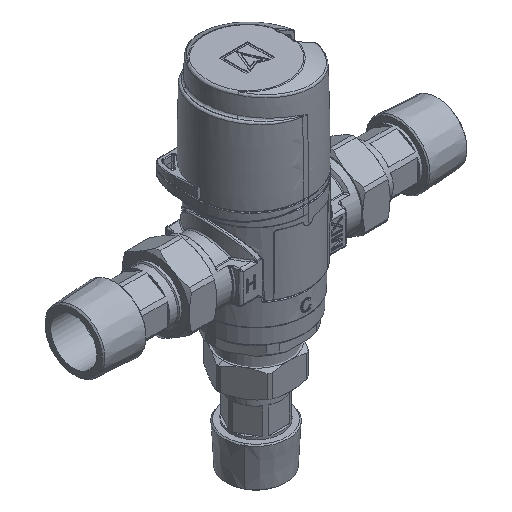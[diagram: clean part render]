
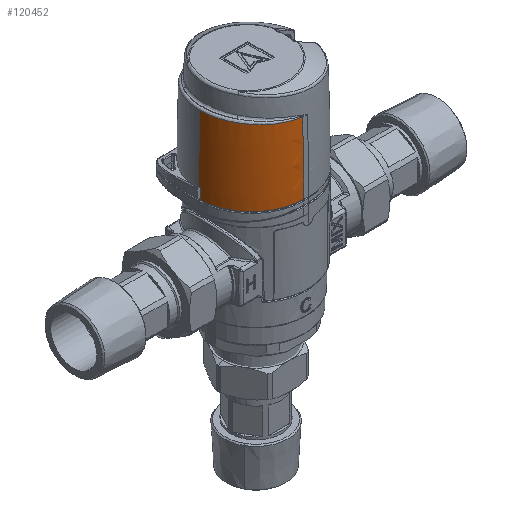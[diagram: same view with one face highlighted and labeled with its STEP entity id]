
A CAD part, isometric view. The second image highlights one B-rep face of the part: STEP entity #120452.
In plain terms, the highlighted toroidal (fillet/blend) face has major radius 1063.64 mm and minor radius 1085.24 mm.
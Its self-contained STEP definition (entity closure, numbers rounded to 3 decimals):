
#2179 = DIRECTION ( 'NONE',  ( 0., 0., -1. ) ) ;
#3913 = CARTESIAN_POINT ( 'NONE',  ( 3.393, 21.19, 29.641 ) ) ;
#4411 = CARTESIAN_POINT ( 'NONE',  ( 2., 0., 0.3 ) ) ;
#4562 = B_SPLINE_CURVE_WITH_KNOTS ( 'NONE', 3,
 ( #162615, #89217, #144504, #178944 ),
 .UNSPECIFIED., .F., .F.,
 ( 4, 4 ),
 ( 0., 0.004 ),
 .UNSPECIFIED. ) ;
#5992 = EDGE_CURVE ( 'NONE', #56878, #26967, #176265, .T. ) ;
#6597 = CARTESIAN_POINT ( 'NONE',  ( 22.242, 6.189, 31.639 ) ) ;
#12438 = CARTESIAN_POINT ( 'NONE',  ( 23.585, 0.361, 4.946 ) ) ;
#12789 = FACE_OUTER_BOUND ( 'NONE', #105527, .T. ) ;
#14120 = AXIS2_PLACEMENT_3D ( 'NONE', #38216, #26413, #123380 ) ;
#21102 = CARTESIAN_POINT ( 'NONE',  ( 20.656, 10.011, 31.471 ) ) ;
#22800 = VERTEX_POINT ( 'NONE', #152306 ) ;
#24977 = ORIENTED_EDGE ( 'NONE', *, *, #150360, .F. ) ;
#26413 = DIRECTION ( 'NONE',  ( 0., 0., 1. ) ) ;
#26967 = VERTEX_POINT ( 'NONE', #33482 ) ;
#31088 = CARTESIAN_POINT ( 'NONE',  ( 10.135, 19.691, 30.356 ) ) ;
#31197 = CIRCLE ( 'NONE', #167317, 1085.244 ) ;
#33482 = CARTESIAN_POINT ( 'NONE',  ( 2., 21.6, 0.3 ) ) ;
#37482 = ORIENTED_EDGE ( 'NONE', *, *, #5992, .T. ) ;
#38216 = CARTESIAN_POINT ( 'NONE',  ( 2., 0., -0.2 ) ) ;
#45224 = ORIENTED_EDGE ( 'NONE', *, *, #158930, .F. ) ;
#46413 = CARTESIAN_POINT ( 'NONE',  ( 23.13, 0.005, 31.733 ) ) ;
#47291 = CARTESIAN_POINT ( 'NONE',  ( 17.027, 15.074, 31.086 ) ) ;
#51255 = ORIENTED_EDGE ( 'NONE', *, *, #161020, .F. ) ;
#52304 = CARTESIAN_POINT ( 'NONE',  ( 23.582, 0.6, 4.5 ) ) ;
#56878 = VERTEX_POINT ( 'NONE', #155208 ) ;
#59135 = CARTESIAN_POINT ( 'NONE',  ( 6.124, 20.914, 29.93 ) ) ;
#60938 = CARTESIAN_POINT ( 'NONE',  ( 13.775, 17.743, 30.742 ) ) ;
#62713 = EDGE_CURVE ( 'NONE', #148607, #56878, #4562, .T. ) ;
#63525 = CARTESIAN_POINT ( 'NONE',  ( 23.588, 0., 5. ) ) ;
#73340 = ORIENTED_EDGE ( 'NONE', *, *, #85927, .F. ) ;
#80407 = CARTESIAN_POINT ( 'NONE',  ( 23.582, 0.546, 4.762 ) ) ;
#80902 = DIRECTION ( 'NONE',  ( -1., 0., 0. ) ) ;
#85927 = EDGE_CURVE ( 'NONE', #22800, #96066, #114379, .T. ) ;
#86367 = CARTESIAN_POINT ( 'NONE',  ( 2., 21.194, 29.493 ) ) ;
#88553 = B_SPLINE_CURVE_WITH_KNOTS ( 'NONE', 3,
 ( #99966, #46413, #89051, #145227, #6597, #102678, #21102, #117156, #47291, #60938, #31088, #59135, #3913, #86367 ),
 .UNSPECIFIED., .F., .F.,
 ( 4, 1, 1, 1, 1, 1, 1, 1, 1, 1, 1, 4 ),
 ( 0.5, 0.5, 0.563, 0.594, 0.625, 0.656, 0.688, 0.75, 0.812, 0.875, 0.938, 1. ),
 .UNSPECIFIED. ) ;
#89051 = CARTESIAN_POINT ( 'NONE',  ( 23.131, 1.399, 31.734 ) ) ;
#89217 = CARTESIAN_POINT ( 'NONE',  ( 23.588, 0.6, 3.1 ) ) ;
#89604 = CARTESIAN_POINT ( 'NONE',  ( 2., 0., 5. ) ) ;
#92252 = CARTESIAN_POINT ( 'NONE',  ( 23.587, 0.1, 5. ) ) ;
#94459 = EDGE_CURVE ( 'NONE', #22800, #148607, #132401, .T. ) ;
#96066 = VERTEX_POINT ( 'NONE', #63525 ) ;
#97957 = AXIS2_PLACEMENT_3D ( 'NONE', #4411, #145714, #172135 ) ;
#99966 = CARTESIAN_POINT ( 'NONE',  ( 23.13, 0., 31.733 ) ) ;
#102678 = CARTESIAN_POINT ( 'NONE',  ( 21.542, 8.137, 31.565 ) ) ;
#104127 = DIRECTION ( 'NONE',  ( 1., 0., 0. ) ) ;
#105527 = EDGE_LOOP ( 'NONE', ( #51255, #73340, #128269, #140466, #37482, #24977, #45224 ) ) ;
#107278 = DIRECTION ( 'NONE',  ( 0., -1., 0. ) ) ;
#109075 = CIRCLE ( 'NONE', #123539, 1085.244 ) ;
#114379 = CIRCLE ( 'NONE', #166358, 21.588 ) ;
#114558 = CARTESIAN_POINT ( 'NONE',  ( -1061.644, 0., -0.2 ) ) ;
#117156 = CARTESIAN_POINT ( 'NONE',  ( 19.212, 12.415, 31.318 ) ) ;
#117692 = DIRECTION ( 'NONE',  ( 0., 0., -1. ) ) ;
#120452 = ADVANCED_FACE ( 'NONE', ( #12789 ), #132805, .T. ) ;
#123380 = DIRECTION ( 'NONE',  ( 1., 0., 0. ) ) ;
#123539 = AXIS2_PLACEMENT_3D ( 'NONE', #176281, #80902, #107278 ) ;
#128165 = CARTESIAN_POINT ( 'NONE',  ( 2., 21.194, 29.493 ) ) ;
#128269 = ORIENTED_EDGE ( 'NONE', *, *, #94459, .T. ) ;
#132401 = B_SPLINE_CURVE_WITH_KNOTS ( 'NONE', 3,
 ( #92252, #135722, #12438, #80407, #147507, #52304 ),
 .UNSPECIFIED., .F., .F.,
 ( 4, 2, 4 ),
 ( 0., 0., 0.001 ),
 .UNSPECIFIED. ) ;
#132805 = TOROIDAL_SURFACE ( 'NONE', #14120, -1063.644, 1085.244 ) ;
#135508 = CARTESIAN_POINT ( 'NONE',  ( 23.13, 0., 31.733 ) ) ;
#135722 = CARTESIAN_POINT ( 'NONE',  ( 23.587, 0.232, 5. ) ) ;
#140466 = ORIENTED_EDGE ( 'NONE', *, *, #62713, .T. ) ;
#144504 = CARTESIAN_POINT ( 'NONE',  ( 23.591, 0.6, 1.7 ) ) ;
#145227 = CARTESIAN_POINT ( 'NONE',  ( 22.925, 3.47, 31.712 ) ) ;
#145714 = DIRECTION ( 'NONE',  ( 0., 0., 1. ) ) ;
#147507 = CARTESIAN_POINT ( 'NONE',  ( 23.581, 0.6, 4.632 ) ) ;
#148607 = VERTEX_POINT ( 'NONE', #165059 ) ;
#150360 = EDGE_CURVE ( 'NONE', #162563, #26967, #109075, .T. ) ;
#152306 = CARTESIAN_POINT ( 'NONE',  ( 23.587, 0.1, 5. ) ) ;
#155208 = CARTESIAN_POINT ( 'NONE',  ( 23.592, 0.6, 0.3 ) ) ;
#158930 = EDGE_CURVE ( 'NONE', #172115, #162563, #88553, .T. ) ;
#161020 = EDGE_CURVE ( 'NONE', #96066, #172115, #31197, .T. ) ;
#162563 = VERTEX_POINT ( 'NONE', #128165 ) ;
#162615 = CARTESIAN_POINT ( 'NONE',  ( 23.582, 0.6, 4.5 ) ) ;
#165059 = CARTESIAN_POINT ( 'NONE',  ( 23.582, 0.6, 4.5 ) ) ;
#166358 = AXIS2_PLACEMENT_3D ( 'NONE', #89604, #117692, #104127 ) ;
#167317 = AXIS2_PLACEMENT_3D ( 'NONE', #114558, #169889, #2179 ) ;
#169889 = DIRECTION ( 'NONE',  ( 0., -1., 0. ) ) ;
#172115 = VERTEX_POINT ( 'NONE', #135508 ) ;
#172135 = DIRECTION ( 'NONE',  ( 1., 0., 0. ) ) ;
#176265 = CIRCLE ( 'NONE', #97957, 21.6 ) ;
#176281 = CARTESIAN_POINT ( 'NONE',  ( 2., -1063.644, -0.2 ) ) ;
#178944 = CARTESIAN_POINT ( 'NONE',  ( 23.592, 0.6, 0.3 ) ) ;
